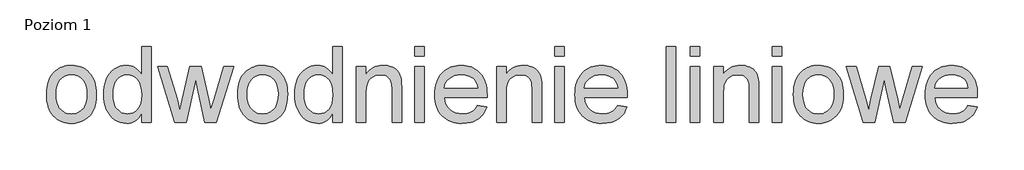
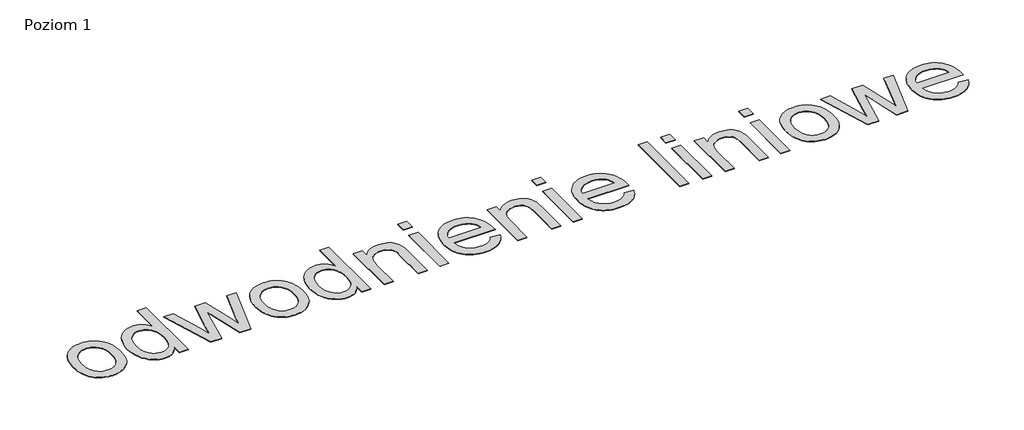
# One storey, part 3 of 4: 1 proxy.
"""IFC4 building model written with IfcOpenShell, lengths in millimetres."""

from ifc_helpers import new_model, si_unit, origin, origin_with_axes, place, context, project, spatial, polyline, outline, extrude, element, save

model = new_model("IFC4")

# Units and contexts
model_context = context("Model", 3, world=origin())
ifc_project = project(units=[si_unit("LENGTHUNIT", "METRE", prefix="MILLI")], contexts=[model_context])

# Site, building, storey
site = spatial("IfcSite", under=ifc_project)
building = spatial("IfcBuilding", under=site)
storey = spatial("IfcBuildingStorey", under=building, Name="Poziom 1", Elevation=0.0)

# Proxy
placement = place(None, origin())
element("IfcBuildingElementProxy", 1, Name="1500 mm Arial", ObjectType="1500 mm Arial", at=placement, inside=storey, context=model_context, shape_type="SweptSolid", body=[
    extrude(outline(polyline([(-112385.6205098, 64818.9922936), (-112383.0740766, 64893.1262638), (-112375.434777, 64962.3053233), (-112362.7026111, 65026.5294723), (-112344.8775788, 65085.7987106), (-112321.9596801, 65140.1130383), (-112293.9489151, 65189.4724554), (-112260.8452837, 65233.8769618), (-112222.6487859, 65273.3265576), (-112187.6885001, 65302.0385977), (-112150.8658116, 65326.9223658), (-112112.1807206, 65347.9778619), (-112071.6332269, 65365.2050859), (-112029.2233306, 65378.604038), (-111984.9510318, 65388.174718), (-111938.8163303, 65393.917126), (-111890.8192263, 65395.831262), (-111837.6171668, 65393.5003847), (-111786.9040589, 65386.5077527), (-111738.6799027, 65374.8533661), (-111692.9446981, 65358.5372248), (-111649.6984451, 65337.5593288), (-111608.9411438, 65311.9196782), (-111570.672794, 65281.6182729), (-111534.8933959, 65246.655113), (-111502.5169063, 65207.5820214), (-111474.4572819, 65164.9508211), (-111450.7145228, 65118.7615122), (-111431.288629, 65069.0140946), (-111416.1796005, 65015.7085683), (-111405.3874373, 64958.8449333), (-111398.9121394, 64898.4231897), (-111396.7537067, 64834.4433374), (-111400.5704824, 64733.6206781), (-111412.0208095, 64644.1563754), (-111431.104688, 64566.0504293), (-111457.8221179, 64499.3028398), (-111491.8397062, 64441.6488334), (-111532.8240597, 64390.8236365), (-111580.7751785, 64346.8272491), (-111635.6930626, 64309.6596713), (-111695.4393979, 64280.1256448), (-111757.8758703, 64259.0299117), (-111823.0024797, 64246.3724718), (-111890.8192263, 64242.1533252), (-111944.8605165, 64244.4755802), (-111996.2519068, 64251.4423455), (-112044.9933971, 64263.053621), (-112091.0849874, 64279.3094067), (-112134.5266777, 64300.2097025), (-112175.318468, 64325.7545086), (-112213.4603583, 64355.9438248), (-112248.9523486, 64390.7776512), (-112280.9839489, 64429.9800763), (-112308.7446691, 64473.2751886), (-112332.2345093, 64520.6629881), (-112351.4534695, 64572.1434748), (-112366.4015496, 64627.7166487), (-112377.0787497, 64687.3825098), (-112383.4850698, 64751.1410581), (-112385.6205098, 64818.9922936)]), holes=[polyline([(-112197.2649282, 64819.3601756), (-112191.8156762, 64727.9989813), (-112185.0041111, 64686.9140351), (-112175.46792, 64648.8928561), (-112163.2071029, 64613.9354443), (-112148.2216598, 64582.0417998), (-112130.5115906, 64553.2119225), (-112110.0768954, 64527.4458124), (-112087.5786121, 64504.7262251), (-112063.6777787, 64485.0359162), (-112038.3743953, 64468.3748855), (-112011.6684617, 64454.7431331), (-111983.559978, 64444.1406591), (-111954.0489442, 64436.5674633), (-111890.8192263, 64430.5089067), (-111827.9114051, 64436.6019522), (-111798.5268307, 64444.2182592), (-111770.5218138, 64454.8810889), (-111743.8963544, 64468.5904413), (-111718.6504525, 64485.3463166), (-111694.7841081, 64505.1487146), (-111672.2973211, 64527.9976354), (-111651.8626259, 64553.967805), (-111634.1525568, 64583.1339494), (-111619.1671136, 64615.4960687), (-111606.9062965, 64651.0541628), (-111597.3701054, 64689.8082317), (-111590.5585403, 64731.7582755), (-111585.1092883, 64825.2462875), (-111590.5930293, 64913.710411), (-111597.4477055, 64953.6572224), (-111607.0442522, 64990.7472001), (-111619.3826695, 65024.9803442), (-111634.4629572, 65056.3566547), (-111652.2851154, 65084.8761315), (-111672.8491441, 65110.5387748), (-111719.3747202, 65152.948671), (-111744.6292444, 65169.6097017), (-111771.2115926, 65183.2414541), (-111799.1217649, 65193.8439281), (-111828.3597613, 65201.4171239), (-111890.8192263, 65207.4756805), (-111954.0489442, 65201.4401165), (-111983.559978, 65193.8956615), (-112011.6684617, 65183.3334246), (-112038.3743953, 65169.7534056), (-112063.6777787, 65153.1556046), (-112087.5786121, 65133.5400217), (-112110.0768954, 65110.9066568), (-112130.5115906, 65085.2267691), (-112148.2216598, 65056.4716178), (-112163.2071029, 65024.641203), (-112175.46792, 64989.7355246), (-112185.0041111, 64951.7545827), (-112191.8156762, 64910.6983772), (-112197.2649282, 64819.3601756)])]), origin_with_axes(), (0.0, 0.0, 1.0), 10.0),
    extrude(outline(polyline([(-110502.0646945, 64265.6977728), (-110502.0646945, 64443.3847765), (-110528.7533836, 64396.2211551), (-110558.4196176, 64355.3460165), (-110591.0633965, 64320.7593608), (-110626.6847203, 64292.461188), (-110665.2835891, 64270.451498), (-110706.8600027, 64254.7302909), (-110751.4139612, 64245.2975666), (-110798.9454646, 64242.1533252), (-110861.1175218, 64246.7058648), (-110920.714405, 64260.3634839), (-110977.7361142, 64283.1261824), (-111032.1826495, 64314.9939602), (-111082.3525566, 64355.0126235), (-111126.5443813, 64402.2279783), (-111164.7581235, 64456.6400247), (-111196.9937834, 64518.2487625), (-111222.5845747, 64585.8815681), (-111240.8637113, 64658.3658174), (-111251.8311933, 64735.7015106), (-111255.4870206, 64817.8886476), (-111252.1186011, 64898.5697677), (-111242.0133425, 64975.434112), (-111225.1712449, 65048.4816807), (-111201.5923083, 65117.7124737), (-111171.2880289, 65181.10314), (-111134.2699032, 65236.6303286), (-111090.537931, 65284.2940396), (-111040.0921124, 65324.094273), (-110984.7143758, 65355.4792057), (-110926.1866497, 65377.8970148), (-110864.5089339, 65391.3477002), (-110799.6812286, 65395.831262), (-110752.2704364, 65392.6237909), (-110707.5267888, 65383.0013774), (-110665.4502856, 65366.9640217), (-110626.0409268, 65344.5117237), (-110589.7355724, 65316.9320704), (-110556.9710823, 65285.5126487), (-110527.7474563, 65250.2534588), (-110502.0646945, 65211.1545005), (-110502.0646945, 65772.5424251), (-110313.7091129, 65772.5424251), (-110313.7091129, 64265.6977728), (-110502.0646945, 64265.6977728)]), holes=[polyline([(-111067.1314391, 64818.6244116), (-111061.8201428, 64727.28621), (-111055.1810224, 64686.2300045), (-111045.8862538, 64648.2490626), (-111033.9358372, 64613.3433842), (-111019.3297723, 64581.5129694), (-111002.0680593, 64552.7578181), (-110982.1506982, 64527.0779304), (-110937.7519399, 64484.8289825), (-110889.5364059, 64454.6511626), (-110837.5040962, 64436.5444707), (-110781.6550108, 64430.5089067), (-110725.5415102, 64436.2685592), (-110673.819601, 64453.5475166), (-110626.489283, 64482.3457791), (-110583.5505564, 64522.6633465), (-110564.4523075, 64547.2223437), (-110547.9004918, 64574.8221156), (-110533.8951093, 64605.4626621), (-110522.43616, 64639.1439832), (-110507.1575608, 64715.6289493), (-110502.0646945, 64804.2770138), (-110507.2495313, 64901.4668384), (-110513.7305774, 64944.8711657), (-110522.804042, 64984.8151029), (-110534.4699249, 65021.2986502), (-110548.7282263, 65054.3218074), (-110565.5789461, 65083.8845746), (-110585.0220844, 65109.9869518), (-110628.9035086, 65152.6382706), (-110652.6462677, 65169.3941458), (-110677.5903914, 65183.1034983), (-110703.7358798, 65193.766328), (-110731.0827328, 65201.382635), (-110789.3805327, 65207.4756805), (-110846.3332641, 65201.6240575), (-110898.3655738, 65184.0691886), (-110945.4774618, 65154.8110736), (-110987.6689281, 65113.8497127), (-111006.2929541, 65088.7561369), (-111022.4337767, 65060.2883935), (-111036.0913957, 65028.4464824), (-111047.2658113, 64993.2304036), (-111062.1650321, 64912.6757429), (-111067.1314391, 64818.6244116)])]), origin_with_axes(), (0.0, 0.0, 1.0), 10.0),
    extrude(outline(polyline([(-109846.1310971, 64265.6977728), (-110184.2146506, 65372.2868143), (-109988.8693112, 65372.2868143), (-109797.5706737, 64726.6539128), (-109740.5489645, 64495.9919018), (-109693.8279511, 64718.1926269), (-109541.8926871, 65372.2868143), (-109318.220434, 65372.2868143), (-109166.28517, 64720.0320369), (-109124.7145045, 64518.8005855), (-109065.1176213, 64731.0684967), (-108873.8189838, 65372.2868143), (-108677.3699984, 65372.2868143), (-109016.5571979, 64265.6977728), (-109243.908271, 64265.6977728), (-109388.8537771, 64914.6416123), (-109430.7923245, 65116.9767097), (-109617.3084961, 64265.6977728), (-109846.1310971, 64265.6977728)])), origin_with_axes(), (0.0, 0.0, 1.0), 10.0),
    extrude(outline(polyline([(-108594.9644315, 64818.9922936), (-108592.4179983, 64893.1262638), (-108584.7786987, 64962.3053233), (-108572.0465328, 65026.5294723), (-108554.2215005, 65085.7987106), (-108531.3036018, 65140.1130383), (-108503.2928368, 65189.4724554), (-108470.1892054, 65233.8769618), (-108431.9927076, 65273.3265576), (-108397.0324218, 65302.0385977), (-108360.2097333, 65326.9223658), (-108321.5246422, 65347.9778619), (-108280.9771486, 65365.2050859), (-108238.5672523, 65378.604038), (-108194.2949535, 65388.174718), (-108148.160252, 65393.917126), (-108100.163148, 65395.831262), (-108046.9610885, 65393.5003847), (-107996.2479806, 65386.5077527), (-107948.0238244, 65374.8533661), (-107902.2886198, 65358.5372248), (-107859.0423668, 65337.5593288), (-107818.2850655, 65311.9196782), (-107780.0167157, 65281.6182729), (-107744.2373176, 65246.655113), (-107711.860828, 65207.5820214), (-107683.8012036, 65164.9508211), (-107660.0584445, 65118.7615122), (-107640.6325507, 65069.0140946), (-107625.5235222, 65015.7085683), (-107614.731359, 64958.8449333), (-107608.2560611, 64898.4231897), (-107606.0976284, 64834.4433374), (-107609.9144041, 64733.6206781), (-107621.3647312, 64644.1563754), (-107640.4486097, 64566.0504293), (-107667.1660396, 64499.3028398), (-107701.1836279, 64441.6488334), (-107742.1679814, 64390.8236365), (-107790.1191002, 64346.8272491), (-107845.0369843, 64309.6596713), (-107904.7833196, 64280.1256448), (-107967.219792, 64259.0299117), (-108032.3464014, 64246.3724718), (-108100.163148, 64242.1533252), (-108154.2044382, 64244.4755802), (-108205.5958285, 64251.4423455), (-108254.3373188, 64263.053621), (-108300.4289091, 64279.3094067), (-108343.8705994, 64300.2097025), (-108384.6623897, 64325.7545086), (-108422.80428, 64355.9438248), (-108458.2962703, 64390.7776512), (-108490.3278706, 64429.9800763), (-108518.0885908, 64473.2751886), (-108541.578431, 64520.6629881), (-108560.7973912, 64572.1434748), (-108575.7454713, 64627.7166487), (-108586.4226714, 64687.3825098), (-108592.8289915, 64751.1410581), (-108594.9644315, 64818.9922936)]), holes=[polyline([(-108406.6088499, 64819.3601756), (-108401.1595979, 64727.9989813), (-108394.3480328, 64686.9140351), (-108384.8118417, 64648.8928561), (-108372.5510246, 64613.9354443), (-108357.5655815, 64582.0417998), (-108339.8555123, 64553.2119225), (-108319.4208171, 64527.4458124), (-108296.9225338, 64504.7262251), (-108273.0217004, 64485.0359162), (-108247.718317, 64468.3748855), (-108221.0123834, 64454.7431331), (-108192.9038997, 64444.1406591), (-108163.3928659, 64436.5674633), (-108100.163148, 64430.5089067), (-108037.2553268, 64436.6019522), (-108007.8707524, 64444.2182592), (-107979.8657355, 64454.8810889), (-107953.2402761, 64468.5904413), (-107927.9943742, 64485.3463166), (-107904.1280298, 64505.1487146), (-107881.6412428, 64527.9976354), (-107861.2065476, 64553.967805), (-107843.4964785, 64583.1339494), (-107828.5110353, 64615.4960687), (-107816.2502182, 64651.0541628), (-107806.7140271, 64689.8082317), (-107799.902462, 64731.7582755), (-107794.45321, 64825.2462875), (-107799.936951, 64913.710411), (-107806.7916272, 64953.6572224), (-107816.3881739, 64990.7472001), (-107828.7265912, 65024.9803442), (-107843.8068789, 65056.3566547), (-107861.6290371, 65084.8761315), (-107882.1930658, 65110.5387748), (-107928.7186419, 65152.948671), (-107953.9731661, 65169.6097017), (-107980.5555143, 65183.2414541), (-108008.4656866, 65193.8439281), (-108037.703683, 65201.4171239), (-108100.163148, 65207.4756805), (-108163.3928659, 65201.4401165), (-108192.9038997, 65193.8956615), (-108221.0123834, 65183.3334246), (-108247.718317, 65169.7534056), (-108273.0217004, 65153.1556046), (-108296.9225338, 65133.5400217), (-108319.4208171, 65110.9066568), (-108339.8555123, 65085.2267691), (-108357.5655815, 65056.4716178), (-108372.5510246, 65024.641203), (-108384.8118417, 64989.7355246), (-108394.3480328, 64951.7545827), (-108401.1595979, 64910.6983772), (-108406.6088499, 64819.3601756)])]), origin_with_axes(), (0.0, 0.0, 1.0), 10.0),
    extrude(outline(polyline([(-106711.4086162, 64265.6977728), (-106711.4086162, 64443.3847765), (-106738.0973053, 64396.2211551), (-106767.7635393, 64355.3460165), (-106800.4073182, 64320.7593608), (-106836.028642, 64292.461188), (-106874.6275108, 64270.451498), (-106916.2039244, 64254.7302909), (-106960.7578829, 64245.2975666), (-107008.2893863, 64242.1533252), (-107070.4614435, 64246.7058648), (-107130.0583267, 64260.3634839), (-107187.0800359, 64283.1261824), (-107241.5265712, 64314.9939602), (-107291.6964783, 64355.0126235), (-107335.888303, 64402.2279783), (-107374.1020452, 64456.6400247), (-107406.3377051, 64518.2487625), (-107431.9284963, 64585.8815681), (-107450.207633, 64658.3658174), (-107461.175115, 64735.7015106), (-107464.8309423, 64817.8886476), (-107461.4625228, 64898.5697677), (-107451.3572642, 64975.434112), (-107434.5151666, 65048.4816807), (-107410.93623, 65117.7124737), (-107380.6319506, 65181.10314), (-107343.6138249, 65236.6303286), (-107299.8818527, 65284.2940396), (-107249.4360341, 65324.094273), (-107194.0582975, 65355.4792057), (-107135.5305714, 65377.8970148), (-107073.8528556, 65391.3477002), (-107009.0251503, 65395.831262), (-106961.6143581, 65392.6237909), (-106916.8707105, 65383.0013774), (-106874.7942073, 65366.9640217), (-106835.3848485, 65344.5117237), (-106799.0794941, 65316.9320704), (-106766.315004, 65285.5126487), (-106737.091378, 65250.2534588), (-106711.4086162, 65211.1545005), (-106711.4086162, 65772.5424251), (-106523.0530346, 65772.5424251), (-106523.0530346, 64265.6977728), (-106711.4086162, 64265.6977728)]), holes=[polyline([(-107276.4753608, 64818.6244116), (-107271.1640645, 64727.28621), (-107264.5249441, 64686.2300045), (-107255.2301755, 64648.2490626), (-107243.2797589, 64613.3433842), (-107228.673694, 64581.5129694), (-107211.411981, 64552.7578181), (-107191.4946199, 64527.0779304), (-107147.0958616, 64484.8289825), (-107098.8803276, 64454.6511626), (-107046.8480179, 64436.5444707), (-106990.9989325, 64430.5089067), (-106934.8854319, 64436.2685592), (-106883.1635227, 64453.5475166), (-106835.8332047, 64482.3457791), (-106792.8944781, 64522.6633465), (-106773.7962292, 64547.2223437), (-106757.2444135, 64574.8221156), (-106743.239031, 64605.4626621), (-106731.7800817, 64639.1439832), (-106716.5014825, 64715.6289493), (-106711.4086162, 64804.2770138), (-106716.593453, 64901.4668384), (-106723.0744991, 64944.8711657), (-106732.1479636, 64984.8151029), (-106743.8138466, 65021.2986502), (-106758.072148, 65054.3218074), (-106774.9228678, 65083.8845746), (-106794.3660061, 65109.9869518), (-106838.2474303, 65152.6382706), (-106861.9901894, 65169.3941458), (-106886.9343131, 65183.1034983), (-106913.0798015, 65193.766328), (-106940.4266545, 65201.382635), (-106998.7244544, 65207.4756805), (-107055.6771858, 65201.6240575), (-107107.7094955, 65184.0691886), (-107154.8213835, 65154.8110736), (-107197.0128498, 65113.8497127), (-107215.6368758, 65088.7561369), (-107231.7776983, 65060.2883935), (-107245.4353174, 65028.4464824), (-107256.609733, 64993.2304036), (-107271.5089538, 64912.6757429), (-107276.4753608, 64818.6244116)])]), origin_with_axes(), (0.0, 0.0, 1.0), 10.0),
    extrude(outline(polyline([(-106240.5196623, 64265.6977728), (-106240.5196623, 65372.2868143), (-106052.1640808, 65372.2868143), (-106052.1640808, 65217.7763764), (-106021.0895485, 65259.5079902), (-105986.7270709, 65295.6753888), (-105949.076648, 65326.2785723), (-105908.1382797, 65351.3175406), (-105863.9119661, 65370.7922937), (-105816.3977072, 65384.7028317), (-105765.5955029, 65393.0491544), (-105711.5053533, 65395.831262), (-105664.1060575, 65393.5894811), (-105618.6611347, 65386.8641384), (-105575.1705851, 65375.6552339), (-105533.6344086, 65359.9627675), (-105495.6276, 65340.6259701), (-105462.725154, 65318.4840725), (-105434.9270708, 65293.5370747), (-105412.2333502, 65265.7849767), (-105393.5978279, 65235.2622674), (-105377.9743394, 65202.0034358), (-105365.3628848, 65166.0084819), (-105355.7634639, 65127.2774056), (-105348.3138535, 65055.816328), (-105345.8306501, 64945.1758179), (-105345.8306501, 64265.6977728), (-105534.1862316, 64265.6977728), (-105534.1862316, 64919.7919603), (-105539.612491, 65017.1887185), (-105546.3953153, 65055.3334829), (-105555.8912693, 65086.4425041), (-105568.8246207, 65112.6425999), (-105585.9196372, 65136.0605882), (-105607.1763187, 65156.6964689), (-105632.5946653, 65174.5502419), (-105661.3009573, 65188.9551213), (-105692.4214748, 65199.2443209), (-105725.9562179, 65205.4178406), (-105761.9051866, 65207.4756805), (-105819.0993406, 65202.8541629), (-105872.2237999, 65188.9896102), (-105921.2785647, 65165.8820224), (-105966.2636349, 65133.5313995), (-105986.3965519, 65112.9702448), (-106003.84508, 65088.2589214), (-106018.6092191, 65059.3974293), (-106030.6889693, 65026.3857684), (-106040.0843306, 64989.2239387), (-106046.7953029, 64947.9119403), (-106052.1640808, 64852.8374371), (-106052.1640808, 64265.6977728), (-106240.5196623, 64265.6977728)])), origin_with_axes(), (0.0, 0.0, 1.0), 10.0),
    extrude(outline(polyline([(-105086.8417255, 64265.6977728), (-105086.8417255, 65372.2868143), (-104898.4861439, 65372.2868143), (-104898.4861439, 64265.6977728), (-105086.8417255, 64265.6977728)])), origin_with_axes(), (0.0, 0.0, 1.0), 10.0),
    extrude(outline(polyline([(-105086.8417255, 65584.1868436), (-105086.8417255, 65772.5424251), (-104898.4861439, 65772.5424251), (-104898.4861439, 65584.1868436), (-105086.8417255, 65584.1868436)])), origin_with_axes(), (0.0, 0.0, 1.0), 10.0),
    extrude(outline(polyline([(-103841.1932898, 64595.3200405), (-103656.5165282, 64571.7755928), (-103684.8319455, 64497.8083192), (-103702.7058372, 64464.1183758), (-103723.0571841, 64432.6242282), (-103745.8859863, 64403.3258761), (-103771.1922439, 64376.2233198), (-103798.9759568, 64351.3165591), (-103829.237125, 64328.605594), (-103861.8262964, 64308.3433435), (-103896.594019, 64290.7827264), (-103933.5402928, 64275.9237427), (-103972.6651178, 64263.7663924), (-104057.4504214, 64247.556592), (-104150.9499297, 64242.1533252), (-104210.9779247, 64244.4842025), (-104267.8214411, 64251.4768345), (-104321.480479, 64263.1312211), (-104371.9550383, 64279.4473624), (-104419.2451192, 64300.4252584), (-104463.3507215, 64326.064909), (-104504.2718453, 64356.3663143), (-104542.0084906, 64391.3294742), (-104575.8938713, 64430.5002845), (-104605.2612012, 64473.4246407), (-104630.1104803, 64520.1025429), (-104650.4417087, 64570.5339911), (-104666.2548863, 64624.7189853), (-104677.5500132, 64682.6575254), (-104684.3270893, 64744.3496116), (-104686.5861147, 64809.7952437), (-104684.3040967, 64877.4682864), (-104677.4580427, 64941.2440791), (-104666.0479527, 65001.122622), (-104650.0738267, 65057.103915), (-104629.5356647, 65109.1879581), (-104604.4334667, 65157.3747513), (-104574.7672327, 65201.6642946), (-104540.5369626, 65242.056588), (-104502.6681098, 65278.0975273), (-104462.0861272, 65309.3330079), (-104418.7910149, 65335.76303), (-104372.7827728, 65357.3875935), (-104324.0614011, 65374.2066985), (-104272.6268996, 65386.2203449), (-104218.4792685, 65393.4285327), (-104161.6185076, 65395.831262), (-104106.6172752, 65393.4342809), (-104054.1854687, 65386.2433375), (-104004.323088, 65374.2584319), (-103957.030133, 65357.479564), (-103912.3066039, 65335.9067339), (-103870.1525006, 65309.5399415), (-103830.5678231, 65278.3791869), (-103793.5525714, 65242.42447), (-103760.0551913, 65202.1241471), (-103731.0241286, 65157.9265743), (-103706.4593831, 65109.8317516), (-103686.3609551, 65057.839679), (-103670.7288444, 65001.9503565), (-103659.563051, 64942.1637841), (-103652.863575, 64878.4799618), (-103650.6304163, 64810.8988897), (-103651.7340623, 64760.1311744), (-104498.2305332, 64760.1311744), (-104487.3205328, 64684.9682842), (-104477.8217047, 64650.8874663), (-104465.6269914, 64619.1403997), (-104450.7363928, 64589.7270846), (-104433.149909, 64562.6475208), (-104412.8675399, 64537.9017085), (-104389.8892856, 64515.4896476), (-104338.2363542, 64478.3105734), (-104280.5823478, 64451.7540919), (-104216.9272663, 64435.820203), (-104147.2711098, 64430.5089067), (-104095.1698222, 64432.9691175), (-104047.0232661, 64440.3497501), (-104002.8314414, 64452.6508043), (-103962.5943482, 64469.8722802), (-103926.3119864, 64492.4740302), (-103893.9843561, 64520.915907), (-103865.6114572, 64555.1979104), (-103841.1932898, 64595.3200405)]), holes=[polyline([(-104498.2305332, 64948.4867559), (-103838.9859978, 64948.4867559), (-103848.6658928, 65001.7836599), (-103864.461826, 65047.9988356), (-103886.3737973, 65087.1322828), (-103914.4018068, 65119.1840017), (-103939.1993526, 65139.8773639), (-103965.7673304, 65157.8116112), (-103994.1057404, 65172.9867435), (-104024.2145824, 65185.4027608), (-104089.7435628, 65201.9574506), (-104162.3542716, 65207.4756805), (-104228.584527, 65203.0725929), (-104289.3195452, 65189.86333), (-104344.559326, 65167.8478918), (-104394.3038696, 65137.0262784), (-104436.0469797, 65098.8240325), (-104467.2824603, 65054.6666968), (-104488.0103115, 65004.5542712), (-104498.2305332, 64948.4867559)])]), origin_with_axes(), (0.0, 0.0, 1.0), 10.0),
    extrude(outline(polyline([(-103462.2748348, 64265.6977728), (-103462.2748348, 65372.2868143), (-103273.9192532, 65372.2868143), (-103273.9192532, 65217.7763764), (-103242.844721, 65259.5079902), (-103208.4822433, 65295.6753888), (-103170.8318204, 65326.2785723), (-103129.8934521, 65351.3175406), (-103085.6671385, 65370.7922937), (-103038.1528796, 65384.7028317), (-102987.3506753, 65393.0491544), (-102933.2605257, 65395.831262), (-102885.8612299, 65393.5894811), (-102840.4163072, 65386.8641384), (-102796.9257576, 65375.6552339), (-102755.389581, 65359.9627675), (-102717.3827724, 65340.6259701), (-102684.4803265, 65318.4840725), (-102656.6822432, 65293.5370747), (-102633.9885226, 65265.7849767), (-102615.3530003, 65235.2622674), (-102599.7295118, 65202.0034358), (-102587.1180572, 65166.0084819), (-102577.5186364, 65127.2774056), (-102570.069026, 65055.816328), (-102567.5858225, 64945.1758179), (-102567.5858225, 64265.6977728), (-102755.941404, 64265.6977728), (-102755.941404, 64919.7919603), (-102761.3676635, 65017.1887185), (-102768.1504877, 65055.3334829), (-102777.6464417, 65086.4425041), (-102790.5797931, 65112.6425999), (-102807.6748096, 65136.0605882), (-102828.9314911, 65156.6964689), (-102854.3498377, 65174.5502419), (-102883.0561297, 65188.9551213), (-102914.1766472, 65199.2443209), (-102947.7113903, 65205.4178406), (-102983.660359, 65207.4756805), (-103040.854513, 65202.8541629), (-103093.9789723, 65188.9896102), (-103143.0337371, 65165.8820224), (-103188.0188074, 65133.5313995), (-103208.1517244, 65112.9702448), (-103225.6002524, 65088.2589214), (-103240.3643916, 65059.3974293), (-103252.4441418, 65026.3857684), (-103261.839503, 64989.2239387), (-103268.5504754, 64947.9119403), (-103273.9192532, 64852.8374371), (-103273.9192532, 64265.6977728), (-103462.2748348, 64265.6977728)])), origin_with_axes(), (0.0, 0.0, 1.0), 10.0),
    extrude(outline(polyline([(-102308.5968979, 65584.1868436), (-102308.5968979, 65772.5424251), (-102120.2413164, 65772.5424251), (-102120.2413164, 65584.1868436), (-102308.5968979, 65584.1868436)])), origin_with_axes(), (0.0, 0.0, 1.0), 10.0),
    extrude(outline(polyline([(-102308.5968979, 64265.6977728), (-102308.5968979, 65372.2868143), (-102120.2413164, 65372.2868143), (-102120.2413164, 64265.6977728), (-102308.5968979, 64265.6977728)])), origin_with_axes(), (0.0, 0.0, 1.0), 10.0),
    extrude(outline(polyline([(-101062.9484622, 64595.3200405), (-100878.2717006, 64571.7755928), (-100906.587118, 64497.8083192), (-100924.4610096, 64464.1183758), (-100944.8123565, 64432.6242282), (-100967.6411588, 64403.3258761), (-100992.9474163, 64376.2233198), (-101020.7311292, 64351.3165591), (-101050.9922974, 64328.605594), (-101083.5814688, 64308.3433435), (-101118.3491914, 64290.7827264), (-101155.2954653, 64275.9237427), (-101194.4202903, 64263.7663924), (-101279.2055938, 64247.556592), (-101372.7051022, 64242.1533252), (-101432.7330971, 64244.4842025), (-101489.5766135, 64251.4768345), (-101543.2356514, 64263.1312211), (-101593.7102108, 64279.4473624), (-101641.0002916, 64300.4252584), (-101685.1058939, 64326.064909), (-101726.0270178, 64356.3663143), (-101763.763663, 64391.3294742), (-101797.6490437, 64430.5002845), (-101827.0163736, 64473.4246407), (-101851.8656527, 64520.1025429), (-101872.1968811, 64570.5339911), (-101888.0100588, 64624.7189853), (-101899.3051856, 64682.6575254), (-101906.0822618, 64744.3496116), (-101908.3412871, 64809.7952437), (-101906.0592691, 64877.4682864), (-101899.2132151, 64941.2440791), (-101887.8031251, 65001.122622), (-101871.8289991, 65057.103915), (-101851.2908371, 65109.1879581), (-101826.1886391, 65157.3747513), (-101796.5224051, 65201.6642946), (-101762.2921351, 65242.056588), (-101724.4232822, 65278.0975273), (-101683.8412996, 65309.3330079), (-101640.5461873, 65335.76303), (-101594.5379453, 65357.3875935), (-101545.8165735, 65374.2066985), (-101494.3820721, 65386.2203449), (-101440.2344409, 65393.4285327), (-101383.37368, 65395.831262), (-101328.3724477, 65393.4342809), (-101275.9406411, 65386.2433375), (-101226.0782604, 65374.2584319), (-101178.7853055, 65357.479564), (-101134.0617763, 65335.9067339), (-101091.907673, 65309.5399415), (-101052.3229955, 65278.3791869), (-101015.3077439, 65242.42447), (-100981.8103637, 65202.1241471), (-100952.779301, 65157.9265743), (-100928.2145556, 65109.8317516), (-100908.1161275, 65057.839679), (-100892.4840168, 65001.9503565), (-100881.3182234, 64942.1637841), (-100874.6187474, 64878.4799618), (-100872.3855887, 64810.8988897), (-100873.4892347, 64760.1311744), (-101719.9857056, 64760.1311744), (-101709.0757052, 64684.9682842), (-101699.5768771, 64650.8874663), (-101687.3821638, 64619.1403997), (-101672.4915652, 64589.7270846), (-101654.9050814, 64562.6475208), (-101634.6227123, 64537.9017085), (-101611.644458, 64515.4896476), (-101559.9915266, 64478.3105734), (-101502.3375202, 64451.7540919), (-101438.6824387, 64435.820203), (-101369.0262822, 64430.5089067), (-101316.9249946, 64432.9691175), (-101268.7784385, 64440.3497501), (-101224.5866139, 64452.6508043), (-101184.3495206, 64469.8722802), (-101148.0671589, 64492.4740302), (-101115.7395285, 64520.915907), (-101087.3666297, 64555.1979104), (-101062.9484622, 64595.3200405)]), holes=[polyline([(-101719.9857056, 64948.4867559), (-101060.7411703, 64948.4867559), (-101070.4210653, 65001.7836599), (-101086.2169984, 65047.9988356), (-101108.1289698, 65087.1322828), (-101136.1569793, 65119.1840017), (-101160.954525, 65139.8773639), (-101187.5225028, 65157.8116112), (-101215.8609128, 65172.9867435), (-101245.9697548, 65185.4027608), (-101311.4987352, 65201.9574506), (-101384.109444, 65207.4756805), (-101450.3396995, 65203.0725929), (-101511.0747176, 65189.86333), (-101566.3144984, 65167.8478918), (-101616.059042, 65137.0262784), (-101657.8021521, 65098.8240325), (-101689.0376328, 65054.6666968), (-101709.7654839, 65004.5542712), (-101719.9857056, 64948.4867559)])]), origin_with_axes(), (0.0, 0.0, 1.0), 10.0),
    extrude(outline(polyline([(-100095.4188149, 64265.6977728), (-100095.4188149, 65772.5424251), (-99907.0632334, 65772.5424251), (-99907.0632334, 64265.6977728), (-100095.4188149, 64265.6977728)])), origin_with_axes(), (0.0, 0.0, 1.0), 10.0),
    extrude(outline(polyline([(-99624.5298611, 65584.1868436), (-99624.5298611, 65772.5424251), (-99436.1742796, 65772.5424251), (-99436.1742796, 65584.1868436), (-99624.5298611, 65584.1868436)])), origin_with_axes(), (0.0, 0.0, 1.0), 10.0),
    extrude(outline(polyline([(-99624.5298611, 64265.6977728), (-99624.5298611, 65372.2868143), (-99436.1742796, 65372.2868143), (-99436.1742796, 64265.6977728), (-99624.5298611, 64265.6977728)])), origin_with_axes(), (0.0, 0.0, 1.0), 10.0),
    extrude(outline(polyline([(-99153.6409073, 64265.6977728), (-99153.6409073, 65372.2868143), (-98965.2853257, 65372.2868143), (-98965.2853257, 65217.7763764), (-98934.2107934, 65259.5079902), (-98899.8483158, 65295.6753888), (-98862.1978929, 65326.2785723), (-98821.2595246, 65351.3175406), (-98777.033211, 65370.7922937), (-98729.5189521, 65384.7028317), (-98678.7167478, 65393.0491544), (-98624.6265982, 65395.831262), (-98577.2273024, 65393.5894811), (-98531.7823797, 65386.8641384), (-98488.29183, 65375.6552339), (-98446.7556535, 65359.9627675), (-98408.7488449, 65340.6259701), (-98375.846399, 65318.4840725), (-98348.0483157, 65293.5370747), (-98325.3545951, 65265.7849767), (-98306.7190728, 65235.2622674), (-98291.0955843, 65202.0034358), (-98278.4841297, 65166.0084819), (-98268.8847089, 65127.2774056), (-98261.4350985, 65055.816328), (-98258.951895, 64945.1758179), (-98258.951895, 64265.6977728), (-98447.3074765, 64265.6977728), (-98447.3074765, 64919.7919603), (-98452.7337359, 65017.1887185), (-98459.5165602, 65055.3334829), (-98469.0125142, 65086.4425041), (-98481.9458656, 65112.6425999), (-98499.0408821, 65136.0605882), (-98520.2975636, 65156.6964689), (-98545.7159102, 65174.5502419), (-98574.4222022, 65188.9551213), (-98605.5427197, 65199.2443209), (-98639.0774628, 65205.4178406), (-98675.0264315, 65207.4756805), (-98732.2205855, 65202.8541629), (-98785.3450448, 65188.9896102), (-98834.3998096, 65165.8820224), (-98879.3848799, 65133.5313995), (-98899.5177969, 65112.9702448), (-98916.9663249, 65088.2589214), (-98931.7304641, 65059.3974293), (-98943.8102143, 65026.3857684), (-98953.2055755, 64989.2239387), (-98959.9165479, 64947.9119403), (-98965.2853257, 64852.8374371), (-98965.2853257, 64265.6977728), (-99153.6409073, 64265.6977728)])), origin_with_axes(), (0.0, 0.0, 1.0), 10.0),
    extrude(outline(polyline([(-97999.9629704, 64265.6977728), (-97999.9629704, 65372.2868143), (-97811.6073889, 65372.2868143), (-97811.6073889, 64265.6977728), (-97999.9629704, 64265.6977728)])), origin_with_axes(), (0.0, 0.0, 1.0), 10.0),
    extrude(outline(polyline([(-97999.9629704, 65584.1868436), (-97999.9629704, 65772.5424251), (-97811.6073889, 65772.5424251), (-97811.6073889, 65584.1868436), (-97999.9629704, 65584.1868436)])), origin_with_axes(), (0.0, 0.0, 1.0), 10.0),
    extrude(outline(polyline([(-97576.1629119, 64818.9922936), (-97573.6164788, 64893.1262638), (-97565.9771792, 64962.3053233), (-97553.2450133, 65026.5294723), (-97535.419981, 65085.7987106), (-97512.5020823, 65140.1130383), (-97484.4913173, 65189.4724554), (-97451.3876859, 65233.8769618), (-97413.1911881, 65273.3265576), (-97378.2309022, 65302.0385977), (-97341.4082138, 65326.9223658), (-97302.7231227, 65347.9778619), (-97262.1756291, 65365.2050859), (-97219.7657328, 65378.604038), (-97175.4934339, 65388.174718), (-97129.3587325, 65393.917126), (-97081.3616284, 65395.831262), (-97028.159569, 65393.5003847), (-96977.4464611, 65386.5077527), (-96929.2223049, 65374.8533661), (-96883.4871003, 65358.5372248), (-96840.2408473, 65337.5593288), (-96799.4835459, 65311.9196782), (-96761.2151962, 65281.6182729), (-96725.4357981, 65246.655113), (-96693.0593084, 65207.5820214), (-96664.9996841, 65164.9508211), (-96641.256925, 65118.7615122), (-96621.8310312, 65069.0140946), (-96606.7220027, 65015.7085683), (-96595.9298395, 64958.8449333), (-96589.4545415, 64898.4231897), (-96587.2961089, 64834.4433374), (-96591.1128846, 64733.6206781), (-96602.5632117, 64644.1563754), (-96621.6470902, 64566.0504293), (-96648.3645201, 64499.3028398), (-96682.3821083, 64441.6488334), (-96723.3664619, 64390.8236365), (-96771.3175807, 64346.8272491), (-96826.2354648, 64309.6596713), (-96885.9818001, 64280.1256448), (-96948.4182724, 64259.0299117), (-97013.5448819, 64246.3724718), (-97081.3616284, 64242.1533252), (-97135.4029187, 64244.4755802), (-97186.794309, 64251.4423455), (-97235.5357993, 64263.053621), (-97281.6273896, 64279.3094067), (-97325.0690798, 64300.2097025), (-97365.8608701, 64325.7545086), (-97404.0027604, 64355.9438248), (-97439.4947507, 64390.7776512), (-97471.526351, 64429.9800763), (-97499.2870713, 64473.2751886), (-97522.7769115, 64520.6629881), (-97541.9958716, 64572.1434748), (-97556.9439518, 64627.7166487), (-97567.6211519, 64687.3825098), (-97574.0274719, 64751.1410581), (-97576.1629119, 64818.9922936)]), holes=[polyline([(-97387.8073304, 64819.3601756), (-97382.3580784, 64727.9989813), (-97375.5465133, 64686.9140351), (-97366.0103222, 64648.8928561), (-97353.7495051, 64613.9354443), (-97338.7640619, 64582.0417998), (-97321.0539928, 64553.2119225), (-97300.6192976, 64527.4458124), (-97278.1210143, 64504.7262251), (-97254.2201809, 64485.0359162), (-97228.9167974, 64468.3748855), (-97202.2108638, 64454.7431331), (-97174.1023802, 64444.1406591), (-97144.5913463, 64436.5674633), (-97081.3616284, 64430.5089067), (-97018.4538073, 64436.6019522), (-96989.0692329, 64444.2182592), (-96961.064216, 64454.8810889), (-96934.4387566, 64468.5904413), (-96909.1928547, 64485.3463166), (-96885.3265102, 64505.1487146), (-96862.8397233, 64527.9976354), (-96842.4050281, 64553.967805), (-96824.6949589, 64583.1339494), (-96809.7095158, 64615.4960687), (-96797.4486987, 64651.0541628), (-96787.9125076, 64689.8082317), (-96781.1009425, 64731.7582755), (-96775.6516904, 64825.2462875), (-96781.1354314, 64913.710411), (-96787.9901077, 64953.6572224), (-96797.5866544, 64990.7472001), (-96809.9250716, 65024.9803442), (-96825.0053594, 65056.3566547), (-96842.8275176, 65084.8761315), (-96863.3915463, 65110.5387748), (-96909.9171224, 65152.948671), (-96935.1716465, 65169.6097017), (-96961.7539947, 65183.2414541), (-96989.6641671, 65193.8439281), (-97018.9021634, 65201.4171239), (-97081.3616284, 65207.4756805), (-97144.5913463, 65201.4401165), (-97174.1023802, 65193.8956615), (-97202.2108638, 65183.3334246), (-97228.9167974, 65169.7534056), (-97254.2201809, 65153.1556046), (-97278.1210143, 65133.5400217), (-97300.6192976, 65110.9066568), (-97321.0539928, 65085.2267691), (-97338.7640619, 65056.4716178), (-97353.7495051, 65024.641203), (-97366.0103222, 64989.7355246), (-97375.5465133, 64951.7545827), (-97382.3580784, 64910.6983772), (-97387.8073304, 64819.3601756)])]), origin_with_axes(), (0.0, 0.0, 1.0), 10.0),
    extrude(outline(polyline([(-96190.3514361, 64265.6977728), (-96528.4349897, 65372.2868143), (-96333.0896502, 65372.2868143), (-96141.7910127, 64726.6539128), (-96084.7693035, 64495.9919018), (-96038.0482901, 64718.1926269), (-95886.1130261, 65372.2868143), (-95662.440773, 65372.2868143), (-95510.505509, 64720.0320369), (-95468.9348436, 64518.8005855), (-95409.3379603, 64731.0684967), (-95218.0393229, 65372.2868143), (-95021.5903374, 65372.2868143), (-95360.777537, 64265.6977728), (-95588.12861, 64265.6977728), (-95733.0741161, 64914.6416123), (-95775.0126636, 65116.9767097), (-95961.5288351, 64265.6977728), (-96190.3514361, 64265.6977728)])), origin_with_axes(), (0.0, 0.0, 1.0), 10.0),
    extrude(outline(polyline([(-94117.3363933, 64595.3200405), (-93932.6596317, 64571.7755928), (-93960.975049, 64497.8083192), (-93978.8489407, 64464.1183758), (-93999.2002876, 64432.6242282), (-94022.0290898, 64403.3258761), (-94047.3353474, 64376.2233198), (-94075.1190603, 64351.3165591), (-94105.3802284, 64328.605594), (-94137.9693999, 64308.3433435), (-94172.7371225, 64290.7827264), (-94209.6833963, 64275.9237427), (-94248.8082213, 64263.7663924), (-94333.5935249, 64247.556592), (-94427.0930332, 64242.1533252), (-94487.1210282, 64244.4842025), (-94543.9645446, 64251.4768345), (-94597.6235825, 64263.1312211), (-94648.0981418, 64279.4473624), (-94695.3882227, 64300.4252584), (-94739.493825, 64326.064909), (-94780.4149488, 64356.3663143), (-94818.1515941, 64391.3294742), (-94852.0369748, 64430.5002845), (-94881.4043046, 64473.4246407), (-94906.2535838, 64520.1025429), (-94926.5848122, 64570.5339911), (-94942.3979898, 64624.7189853), (-94953.6931167, 64682.6575254), (-94960.4701928, 64744.3496116), (-94962.7292182, 64809.7952437), (-94960.4472002, 64877.4682864), (-94953.6011462, 64941.2440791), (-94942.1910562, 65001.122622), (-94926.2169302, 65057.103915), (-94905.6787682, 65109.1879581), (-94880.5765702, 65157.3747513), (-94850.9103361, 65201.6642946), (-94816.6800661, 65242.056588), (-94778.8112132, 65278.0975273), (-94738.2292306, 65309.3330079), (-94694.9341183, 65335.76303), (-94648.9258763, 65357.3875935), (-94600.2045046, 65374.2066985), (-94548.7700031, 65386.2203449), (-94494.622372, 65393.4285327), (-94437.7616111, 65395.831262), (-94382.7603787, 65393.4342809), (-94330.3285722, 65386.2433375), (-94280.4661914, 65374.2584319), (-94233.1732365, 65357.479564), (-94188.4497074, 65335.9067339), (-94146.2956041, 65309.5399415), (-94106.7109266, 65278.3791869), (-94069.6956749, 65242.42447), (-94036.1982948, 65202.1241471), (-94007.167232, 65157.9265743), (-93982.6024866, 65109.8317516), (-93962.5040586, 65057.839679), (-93946.8719479, 65001.9503565), (-93935.7061545, 64942.1637841), (-93929.0066785, 64878.4799618), (-93926.7735198, 64810.8988897), (-93927.8771658, 64760.1311744), (-94774.3736367, 64760.1311744), (-94763.4636363, 64684.9682842), (-94753.9648082, 64650.8874663), (-94741.7700949, 64619.1403997), (-94726.8794963, 64589.7270846), (-94709.2930125, 64562.6475208), (-94689.0106434, 64537.9017085), (-94666.0323891, 64515.4896476), (-94614.3794577, 64478.3105734), (-94556.7254513, 64451.7540919), (-94493.0703698, 64435.820203), (-94423.4142133, 64430.5089067), (-94371.3129257, 64432.9691175), (-94323.1663696, 64440.3497501), (-94278.9745449, 64452.6508043), (-94238.7374517, 64469.8722802), (-94202.4550899, 64492.4740302), (-94170.1274596, 64520.915907), (-94141.7545607, 64555.1979104), (-94117.3363933, 64595.3200405)]), holes=[polyline([(-94774.3736367, 64948.4867559), (-94115.1291013, 64948.4867559), (-94124.8089963, 65001.7836599), (-94140.6049295, 65047.9988356), (-94162.5169008, 65087.1322828), (-94190.5449103, 65119.1840017), (-94215.3424561, 65139.8773639), (-94241.9104339, 65157.8116112), (-94270.2488438, 65172.9867435), (-94300.3576859, 65185.4027608), (-94365.8866663, 65201.9574506), (-94438.4973751, 65207.4756805), (-94504.7276305, 65203.0725929), (-94565.4626487, 65189.86333), (-94620.7024295, 65167.8478918), (-94670.446973, 65137.0262784), (-94712.1900832, 65098.8240325), (-94743.4255638, 65054.6666968), (-94764.153415, 65004.5542712), (-94774.3736367, 64948.4867559)])]), origin_with_axes(), (0.0, 0.0, 1.0), 10.0),
])

save(model, "model.ifc")
